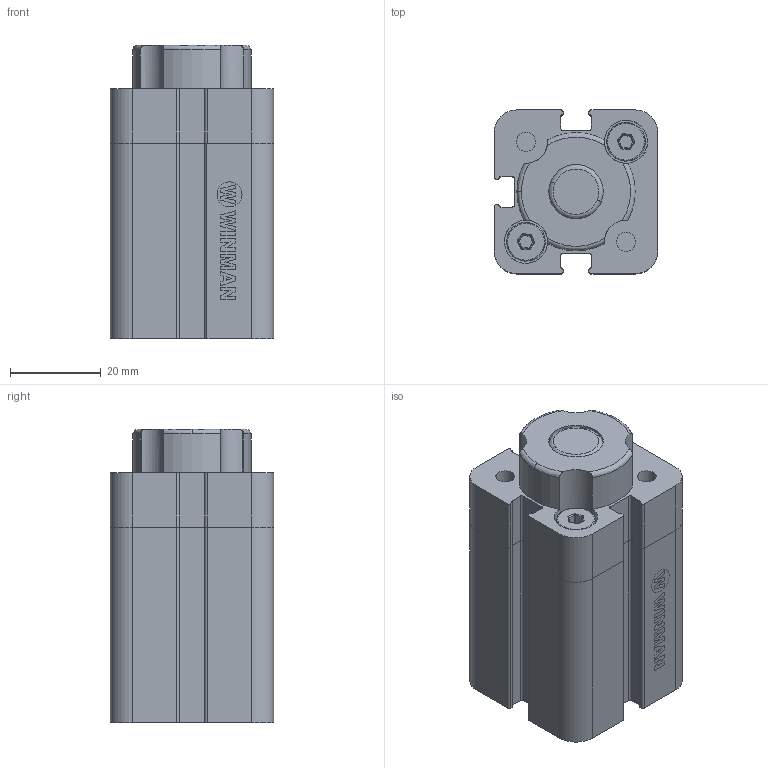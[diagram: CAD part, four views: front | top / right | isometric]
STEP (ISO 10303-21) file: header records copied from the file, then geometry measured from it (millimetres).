
FILE_DESCRIPTION (( 'STEP AP214' ), '1' );
FILE_NAME ('WPSC-020-0015 (MDMY).STEP', '2017-12-01T06:34:17', ( 'Hidtek' ), ( '' ), 'SwSTEP 2.0', 'SolidWorks 2016', '' );
FILE_SCHEMA (( 'AUTOMOTIVE_DESIGN' ));
Length unit declared in the file: millimetre
Products named in the file (3): WPSC-020-0015 (MDMY); Group1^WPSC-020-0015 (MDMY); Group2^WPSC-020-0015 (MDMY)
Assembly tree (2 placements, depth 2):
  WPSC-020-0015 (MDMY)
    Group2^WPSC-020-0015 (MDMY)
    Group1^WPSC-020-0015 (MDMY)
Bounding box: 36 x 36 x 64.5 mm (x, y, z)
Volume: 64826.6 mm3; surface area: 21627.6 mm2
Topology: 5 solids, 5 shells, 382 faces, 975 edges, 606 vertices
Faces by surface type: plane 169, cylinder 139, bspline 48, cone 26
Entity records: 13871 total; most frequent: CARTESIAN_POINT 3458, ORIENTED_EDGE 1910, DIRECTION 1848, EDGE_CURVE 955, AXIS2_PLACEMENT_3D 622, VERTEX_POINT 606, VECTOR 604, LINE 604
